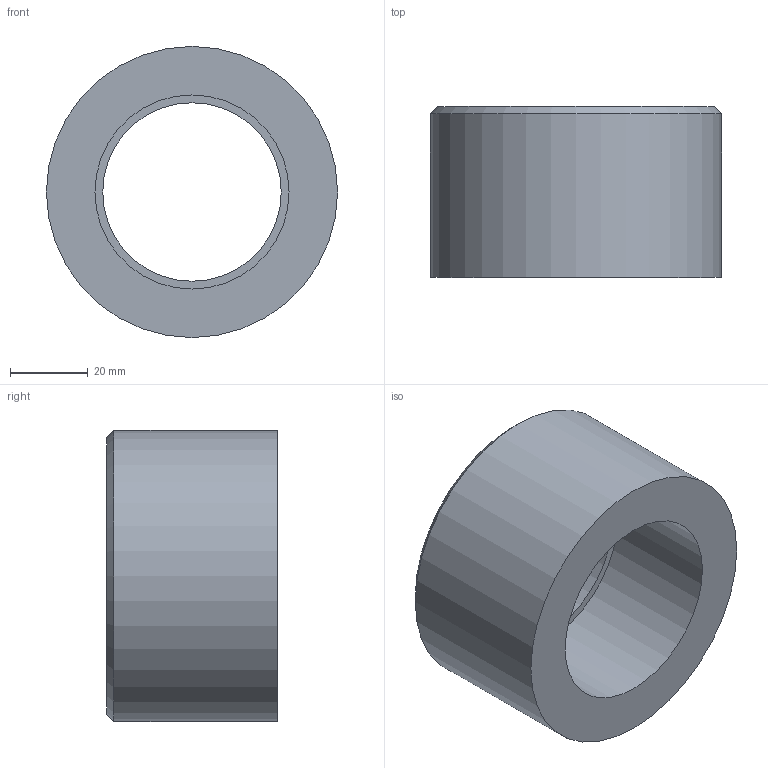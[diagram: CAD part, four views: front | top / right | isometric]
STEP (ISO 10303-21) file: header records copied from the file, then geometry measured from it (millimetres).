
FILE_DESCRIPTION(/* description */ ('PVC riduzione corta incollaggio metrica'),/* implementation_level */ '2;1');
FILE_NAME(/* name */ 'C:\Users\POLYPIPE\Desktop\DATASET INVENTOR\LIBRERIA EFFAST\RACCORDI 3DxWEB\RDR\3D_RDRRCD\3D_RDRRCD075F.stp',/* time_stamp */ '2018-01-19T15:31:57+01:00',/* author */ ('POLYPIPE'),/* organization */ ('Polypipe Italia s.r.l.'),/* preprocessor_version */ 'ST-DEVELOPER v16.1',/* originating_system */ 'Autodesk Inventor 2016',/* authorisation */ '');
FILE_SCHEMA (('CONFIG_CONTROL_DESIGN'));
Length unit declared in the file: millimetre
Products named in the file (1): 3D_RDRRCD
Bounding box: 75 x 44 x 75 mm (x, y, z)
Volume: 106366.8 mm3; surface area: 21768.5 mm2
Topology: 1 solids, 1 shells, 8 faces, 13 edges, 8 vertices
Faces by surface type: plane 3, cylinder 3, cone 2
Full cylindrical faces by diameter (mm): 46 x1, 50 x1, 75 x1
Entity records: 192 total; most frequent: DIRECTION 34, CARTESIAN_POINT 25, AXIS2_PLACEMENT_3D 17, EDGE_LOOP 16, ORIENTED_EDGE 16, FACE_BOUND 8, FACE_OUTER_BOUND 8, CIRCLE 8
